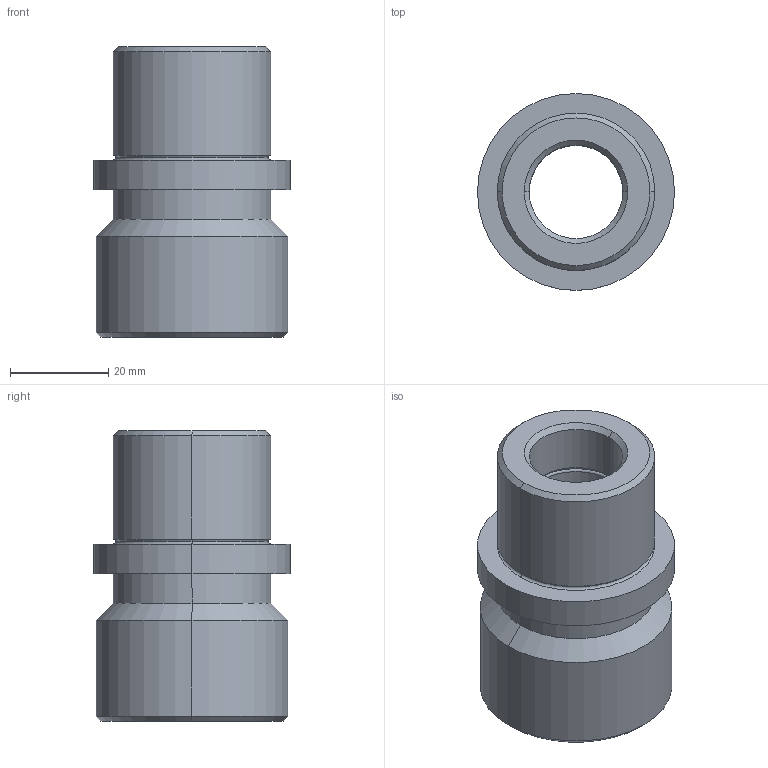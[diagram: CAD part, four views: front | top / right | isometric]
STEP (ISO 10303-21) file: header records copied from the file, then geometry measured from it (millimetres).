
FILE_DESCRIPTION (( 'STEP AP214' ), '1' );
FILE_NAME ('Casquillo SB500-19-59.STEP', '2019-01-10T13:25:25', ( '' ), ( '' ), 'SwSTEP 2.0', 'SolidWorks 2018', '' );
FILE_SCHEMA (( 'AUTOMOTIVE_DESIGN' ));
Length unit declared in the file: millimetre
Products named in the file (1): Casquillo SB500-19-59
Bounding box: 40 x 40 x 59 mm (x, y, z)
Volume: 41876.3 mm3; surface area: 12516.8 mm2
Topology: 1 solids, 1 shells, 40 faces, 80 edges, 44 vertices
Faces by surface type: cylinder 14, torus 12, cone 10, plane 4
Entity records: 1074 total; most frequent: DIRECTION 218, CARTESIAN_POINT 165, ORIENTED_EDGE 160, AXIS2_PLACEMENT_3D 97, EDGE_CURVE 80, CIRCLE 56, EDGE_LOOP 44, VERTEX_POINT 44
